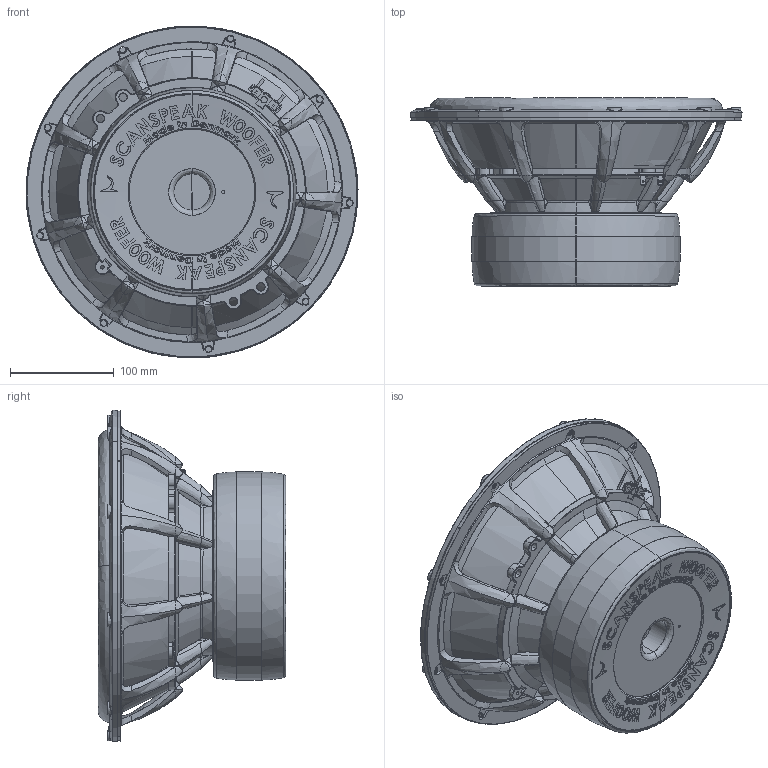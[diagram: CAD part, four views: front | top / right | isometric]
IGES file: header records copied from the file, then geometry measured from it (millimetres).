
Start section: SolidWorks IGES file using analytic representation for surfaces
Global section: file name: W:\TT\32W\32W-8878T11.IGS; native system: SolidWorks 2019; preprocessor: SolidWorks 2019; author: mhn; date: 201124.114437; units: millimetre
Bounding box: 319.85 x 180.97 x 319.8 mm (x, y, z)
Surface area: 431814.5 mm2 (no closed solid volume)
Topology: 0 solids, 0 shells, 2172 faces, 42547 edges, 42446 vertices
Faces by surface type: bspline 1509, revolution 663
